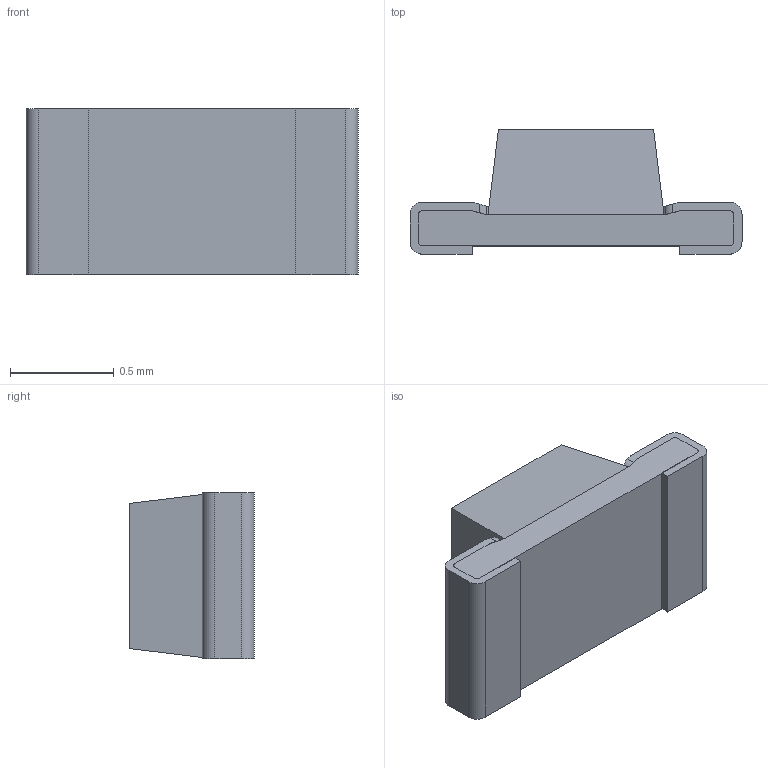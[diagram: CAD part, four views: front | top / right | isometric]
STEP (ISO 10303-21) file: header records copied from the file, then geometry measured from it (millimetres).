
FILE_DESCRIPTION (( 'STEP AP214' ), '1' );
FILE_NAME ('CDLED1608X06B.STEP', '2013-04-01T11:26:15', ( 'Tester2' ), ( '' ), 'SwSTEP 2.0', 'SolidWorks 2012', '' );
FILE_SCHEMA (( 'AUTOMOTIVE_DESIGN' ));
Length unit declared in the file: millimetre
Products named in the file (1): CDLED1608X06B
Bounding box: 1.6 x 0.6 x 0.8 mm (x, y, z)
Volume: 0.5 mm3; surface area: 9.6 mm2
Topology: 3 solids, 3 shells, 74 faces, 204 edges, 136 vertices
Faces by surface type: plane 46, cylinder 28
Entity records: 3020 total; most frequent: CARTESIAN_POINT 475, ORIENTED_EDGE 408, DIRECTION 374, EDGE_CURVE 204, VECTOR 144, LINE 144, VERTEX_POINT 136, AXIS2_PLACEMENT_3D 115
